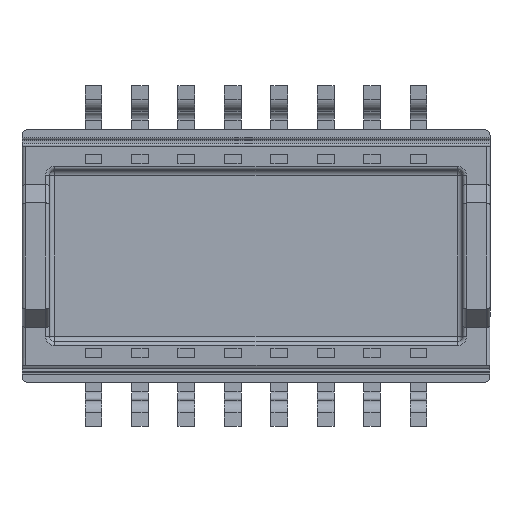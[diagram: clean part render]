
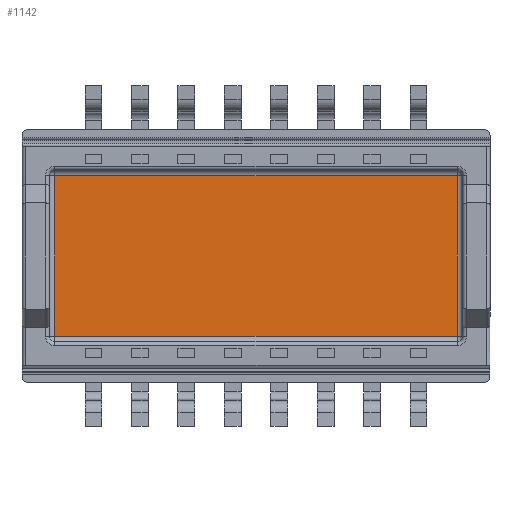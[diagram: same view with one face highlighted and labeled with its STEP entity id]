
A CAD part, front view. The second image highlights one B-rep face of the part: STEP entity #1142.
In plain terms, the highlighted planar face has unit normal (0, -1, 0).
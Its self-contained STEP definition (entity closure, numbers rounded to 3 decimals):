
#134 = CARTESIAN_POINT ( 'NONE',  ( 0., 4.85, 2.2 ) ) ;
#185 = EDGE_CURVE ( 'NONE', #4014, #2602, #7070, .T. ) ;
#272 = CARTESIAN_POINT ( 'NONE',  ( 0., 4.85, -2.2 ) ) ;
#405 = VERTEX_POINT ( 'NONE', #2774 ) ;
#804 = CARTESIAN_POINT ( 'NONE',  ( 5.5, 4.85, -2.2 ) ) ;
#1142 = ADVANCED_FACE ( 'NONE', ( #7340 ), #6609, .T. ) ;
#1253 = EDGE_CURVE ( 'NONE', #405, #4014, #7434, .T. ) ;
#2602 = VERTEX_POINT ( 'NONE', #804 ) ;
#2713 = DIRECTION ( 'NONE',  ( 0., 0., 1. ) ) ;
#2774 = CARTESIAN_POINT ( 'NONE',  ( -5.5, 4.85, 2.2 ) ) ;
#2807 = VECTOR ( 'NONE', #2989, 1000. ) ;
#2989 = DIRECTION ( 'NONE',  ( 0., 0., -1. ) ) ;
#3741 = AXIS2_PLACEMENT_3D ( 'NONE', #5970, #8067, #4630 ) ;
#3824 = ORIENTED_EDGE ( 'NONE', *, *, #1253, .T. ) ;
#4014 = VERTEX_POINT ( 'NONE', #8159 ) ;
#4289 = EDGE_CURVE ( 'NONE', #2602, #5488, #6429, .T. ) ;
#4351 = VECTOR ( 'NONE', #5330, 1000. ) ;
#4549 = ORIENTED_EDGE ( 'NONE', *, *, #185, .T. ) ;
#4630 = DIRECTION ( 'NONE',  ( 0., 0., -1. ) ) ;
#5224 = EDGE_LOOP ( 'NONE', ( #3824, #4549, #8661, #7923 ) ) ;
#5330 = DIRECTION ( 'NONE',  ( -1., 0., 0. ) ) ;
#5343 = EDGE_CURVE ( 'NONE', #5488, #405, #7537, .T. ) ;
#5488 = VERTEX_POINT ( 'NONE', #9239 ) ;
#5970 = CARTESIAN_POINT ( 'NONE',  ( 0., 4.85, 0. ) ) ;
#6300 = DIRECTION ( 'NONE',  ( 1., 0., 0. ) ) ;
#6403 = VECTOR ( 'NONE', #6300, 1000. ) ;
#6429 = LINE ( 'NONE', #9425, #7297 ) ;
#6609 = PLANE ( 'NONE',  #3741 ) ;
#6701 = CARTESIAN_POINT ( 'NONE',  ( -5.5, 4.85, 0. ) ) ;
#7070 = LINE ( 'NONE', #272, #6403 ) ;
#7297 = VECTOR ( 'NONE', #2713, 1000. ) ;
#7340 = FACE_OUTER_BOUND ( 'NONE', #5224, .T. ) ;
#7434 = LINE ( 'NONE', #6701, #2807 ) ;
#7537 = LINE ( 'NONE', #134, #4351 ) ;
#7923 = ORIENTED_EDGE ( 'NONE', *, *, #5343, .T. ) ;
#8067 = DIRECTION ( 'NONE',  ( 0., -1., 0. ) ) ;
#8159 = CARTESIAN_POINT ( 'NONE',  ( -5.5, 4.85, -2.2 ) ) ;
#8661 = ORIENTED_EDGE ( 'NONE', *, *, #4289, .T. ) ;
#9239 = CARTESIAN_POINT ( 'NONE',  ( 5.5, 4.85, 2.2 ) ) ;
#9425 = CARTESIAN_POINT ( 'NONE',  ( 5.5, 4.85, 0. ) ) ;
